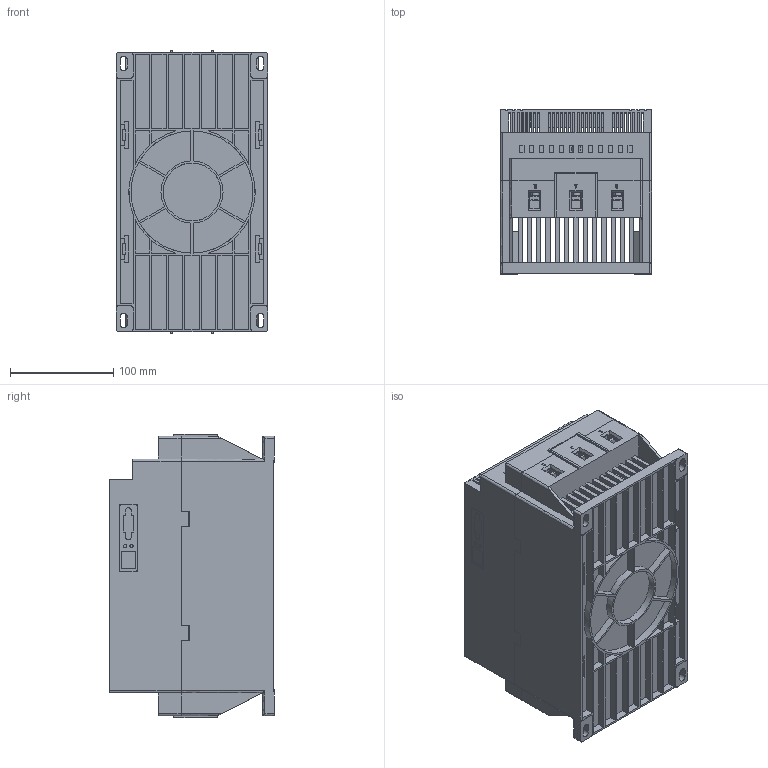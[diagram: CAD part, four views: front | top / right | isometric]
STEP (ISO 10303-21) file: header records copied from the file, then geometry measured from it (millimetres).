
FILE_DESCRIPTION (( 'STEP AP203' ), '1' );
FILE_NAME ('OptiCor S_5.5-55kWt.STEP', '2022-06-02T08:27:44', ( '' ), ( '' ), 'SwSTEP 2.0', 'SolidWorks 2018', '' );
FILE_SCHEMA (( 'CONFIG_CONTROL_DESIGN' ));
Length unit declared in the file: millimetre
Products named in the file (12): 8ZR.110.201______.IGS^OptiCor S_5.5-55kWt(2)_OptiCor S_5.5-55kWt; 8ZR.271.201______.IGS^OptiCor S_5.5-55kWt(2)_OptiCor S_5.5-55kWt; 8ZR.215.201______.IGS^OptiCor S_5.5-55kWt(2)_OptiCor S_5.5-55kWt; 8ZR.936.201____.IGS^OptiCor S_5.5-55kWt(2)_OptiCor S_5.5-55kWt; 8ZR.996.201____.IGS^OptiCor S_5.5-55kWt(2)_OptiCor S_5.5-55kWt; 8ZR.024.201____.IGS^OptiCor S_5.5-55kWt(2)_OptiCor S_5.5-55kWt; 8ZR.864.202____.IGS^OptiCor S_5.5-55kWt(2)_OptiCor S_5.5-55kWt; 8ZR.315.201__.IGS^OptiCor S_5.5-55kWt(2)_OptiCor S_5.5-55kWt; OptiCor S_5.5-55kWt(2)^OptiCor S_5.5-55kWt; 8ZR.069.201________.IGS^OptiCor S_5.5-55kWt(2)_OptiCor S_5.5-55kWt; OptiCor S_5.5-55kWt; 8ZR.860.202____.IGS^OptiCor S_5.5-55kWt(2)_OptiCor S_5.5-55kWt
Assembly tree (50 placements, depth 3):
  OptiCor S_5.5-55kWt
    OptiCor S_5.5-55kWt(2)^OptiCor S_5.5-55kWt
      8ZR.024.201____.IGS^OptiCor S_5.5-55kWt(2)_OptiCor S_5.5-55kWt
      8ZR.315.201__.IGS^OptiCor S_5.5-55kWt(2)_OptiCor S_5.5-55kWt
      8ZR.069.201________.IGS^OptiCor S_5.5-55kWt(2)_OptiCor S_5.5-55kWt
      8ZR.110.201______.IGS^OptiCor S_5.5-55kWt(2)_OptiCor S_5.5-55kWt  x9
      8ZR.271.201______.IGS^OptiCor S_5.5-55kWt(2)_OptiCor S_5.5-55kWt  x9
      8ZR.215.201______.IGS^OptiCor S_5.5-55kWt(2)_OptiCor S_5.5-55kWt  x9
      8ZR.936.201____.IGS^OptiCor S_5.5-55kWt(2)_OptiCor S_5.5-55kWt  x9
      8ZR.996.201____.IGS^OptiCor S_5.5-55kWt(2)_OptiCor S_5.5-55kWt  x9
      8ZR.864.202____.IGS^OptiCor S_5.5-55kWt(2)_OptiCor S_5.5-55kWt
  8ZR.860.202____.IGS^OptiCor S_5.5-55kWt(2)_OptiCor S_5.5-55kWt
Bounding box: 146 x 159 x 274 mm (x, y, z)
Volume: 781777.2 mm3; surface area: 550570.4 mm2
Topology: 49 solids, 49 shells, 2529 faces, 7267 edges, 4871 vertices
Faces by surface type: bspline 2529
Entity records: 64866 total; most frequent: CARTESIAN_POINT 31994, ORIENTED_EDGE 10070, EDGE_CURVE 5035, B_SPLINE_CURVE_WITH_KNOTS 4801, VERTEX_POINT 3431, EDGE_LOOP 1998, ADVANCED_FACE 1649, FACE_OUTER_BOUND 1649
